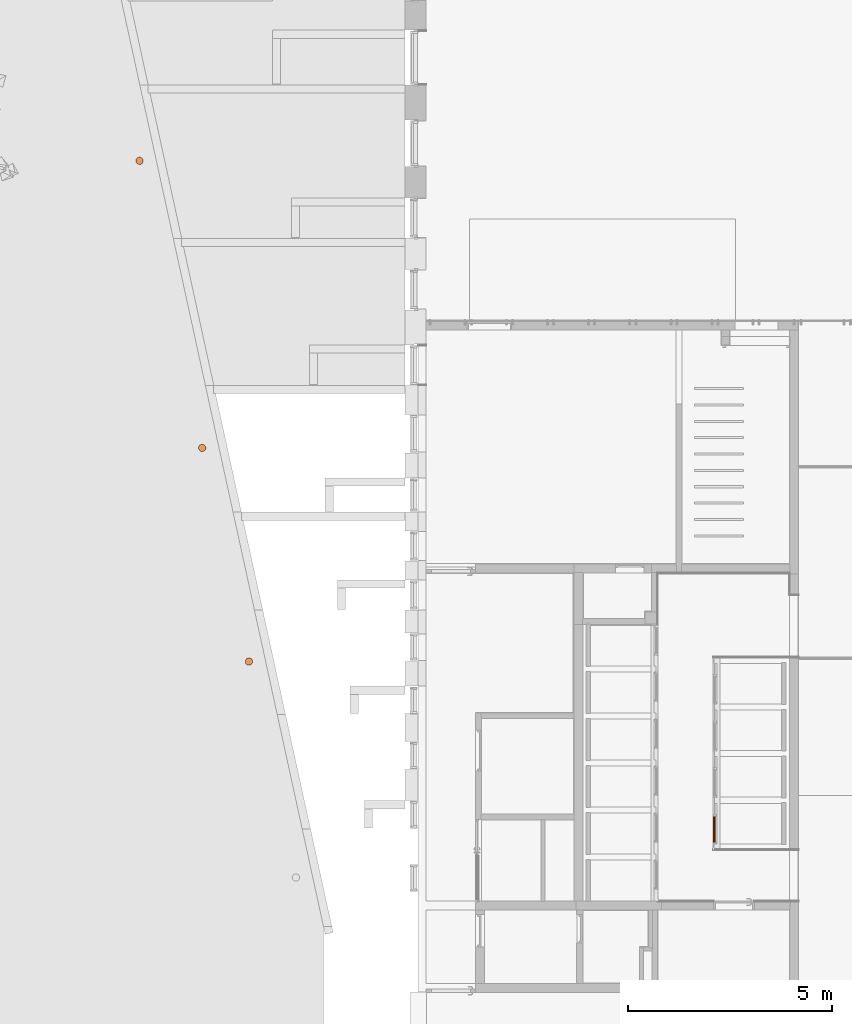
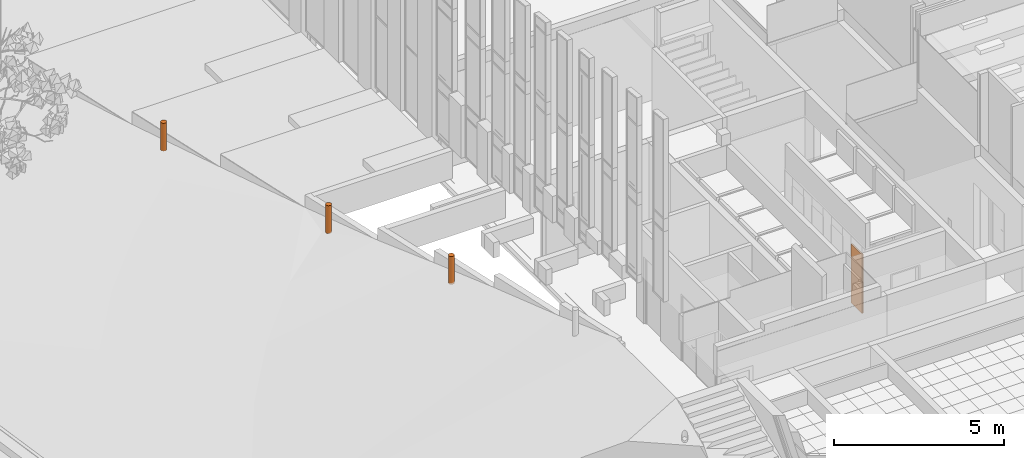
# One storey, part 217 of 246: 4 proxies, 1 element without a shape of its own.
"""IFC2X3 building model written with IfcOpenShell, lengths in millimetres."""

from ifc_helpers import new_model, entity, si_unit, converted_unit, derived_unit, money_unit, direction, frame, origin_with_axes, place, context, subcontext, project, spatial, open_shell, faceted_brep, surface_model, material, material_list, type_object, element, aggregate, save


model = new_model("IFC2X3")

# Units and contexts
model_context = context("Model", 3, precision=0.01, world=origin_with_axes(), true_north=direction((0.0, 1.0)))
body_context = subcontext(model_context, "Body", "Model", "MODEL_VIEW")
ifc_project = project(units=[si_unit("LENGTHUNIT", "METRE", prefix="MILLI"), si_unit("AREAUNIT", "SQUARE_METRE"), si_unit("VOLUMEUNIT", "CUBIC_METRE"), converted_unit("PLANEANGLEUNIT", "DEGREE", entity("IfcPlaneAngleMeasure", 0.0174532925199), si_unit("PLANEANGLEUNIT", "RADIAN"), dimensions=[0, 0, 0, 0, 0, 0, 0]), si_unit("SOLIDANGLEUNIT", "STERADIAN"), money_unit("EUR"), converted_unit("TIMEUNIT", "Year", entity("IfcTimeMeasure", 31556926.0), si_unit("TIMEUNIT", "SECOND"), dimensions=[0, 0, 1, 0, 0, 0, 0]), si_unit("MASSUNIT", "GRAM", prefix="KILO"), si_unit("THERMODYNAMICTEMPERATUREUNIT", "DEGREE_CELSIUS"), si_unit("LUMINOUSINTENSITYUNIT", "LUMEN"), si_unit("ENERGYUNIT", "JOULE", prefix="MEGA"), derived_unit("THERMALCONDUCTANCEUNIT", [(si_unit("POWERUNIT", "WATT"), 1), (si_unit("LENGTHUNIT", "METRE"), -1), (si_unit("THERMODYNAMICTEMPERATUREUNIT", "KELVIN"), -1)]), derived_unit("SPECIFICHEATCAPACITYUNIT", [(si_unit("ENERGYUNIT", "JOULE"), 1), (si_unit("MASSUNIT", "GRAM", prefix="KILO"), -1), (si_unit("THERMODYNAMICTEMPERATUREUNIT", "KELVIN"), -1)]), derived_unit("MASSDENSITYUNIT", [(si_unit("MASSUNIT", "GRAM", prefix="KILO"), 1), (si_unit("VOLUMEUNIT", "CUBIC_METRE"), -1)])], contexts=[model_context])

# Site, building, storey
site_placement = place(None, origin_with_axes())
site = spatial("IfcSite", under=ifc_project, at=site_placement, Name="L.Koidula tn 11b", CompositionType="ELEMENT")
building_placement = place(site_placement, origin_with_axes())
building = spatial("IfcBuilding", under=site, at=building_placement, Name="Rakvere Riigigümnaasium", CompositionType="ELEMENT")
storey_placement = place(building_placement, origin_with_axes())
storey = spatial("IfcBuildingStorey", under=building, at=storey_placement, Name="1.korrus 0,00", CompositionType="ELEMENT", Elevation=0.0)

# Curtain wall, proxy
curtain_wall_type = type_object("IfcCurtainWallType", Name="Curtain Wall Type", PredefinedType="NOTDEFINED")
curtain_wall_placement = place(storey_placement, frame((42519.9999626, 19079.4634323, 0.0), z_axis=(0.0, 0.0, 1.0), x_axis=(1.0, 0.0, 0.0)))
curtain_wall = element("IfcCurtainWall", 1, at=curtain_wall_placement, inside=storey, type_object=curtain_wall_type, Name="SUS-02")
ifc_material_1 = material(Name="Alumiiniumprofiil (RAL 7021)")
ifc_material_2 = material(Name="MDF")
ifc_material_list = material_list([ifc_material_1, ifc_material_2])
building_element_proxy_type_1 = type_object("IfcBuildingElementProxyType", Name="SU-Sile 7 x 2100 x 0", PredefinedType="NOTDEFINED")
proxy_1_placement = place(curtain_wall_placement, frame((0.0, 0.0, 1049.99999429), z_axis=(0.0, 0.0, 1.0), x_axis=(0.0, -1.0, 0.0)))
proxy_1 = element("IfcBuildingElementProxy", 2, at=proxy_1_placement, type_object=building_element_proxy_type_1, material=ifc_material_list, Name="Panel-Curtain-Wa-008", context=body_context, shape_type="SurfaceModel", body=[
    surface_model("IfcShellBasedSurfaceModel", [(-325.007923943, 50.0, -1049.99999429), (-313.007923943, 50.0, -1049.99999429), (-313.007923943, 50.0, 1049.99999429), (-325.007923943, 50.0, 1061.99999429)], [open_shell([[[0, 1, 2, 3]]])]),
    surface_model("IfcShellBasedSurfaceModel", [(-313.007923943, 50.0, 1049.99999429), (313.007915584, 50.0, 1049.99999429), (325.007915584, 50.0, 1061.99999429), (-325.007923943, 50.0, 1061.99999429)], [open_shell([[[0, 1, 2, 3]]])]),
    surface_model("IfcShellBasedSurfaceModel", [(313.007915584, 50.0, 1049.99999429), (313.007915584, 50.0, -1049.99999429), (325.007915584, 50.0, -1049.99999429), (325.007915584, 50.0, 1061.99999429)], [open_shell([[[0, 1, 2, 3]]])]),
    surface_model("IfcShellBasedSurfaceModel", [(-332.007928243, 0.0, -1049.99999429), (-313.007923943, 0.0, -1049.99999429), (-313.007923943, 0.0, 1049.99999429), (-332.007928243, 0.0, 1049.99999429)], [open_shell([[[0, 1, 2, 3]]])]),
    surface_model("IfcShellBasedSurfaceModel", [(332.007920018, 0.0, 1049.99999429), (313.007915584, 0.0, 1049.99999429), (313.007915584, 0.0, -1049.99999429), (332.007920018, 0.0, -1049.99999429)], [open_shell([[[0, 1, 2, 3]]])]),
    faceted_brep([(325.007915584, 38.1818181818, -1049.99999429), (325.007915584, 0.0, -1049.99999429), (-325.007923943, 0.0, -1049.99999429), (-325.007923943, 38.1818181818, -1049.99999429), (325.007915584, 38.1818181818, 1061.99999429), (325.007915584, 0.0, 1061.99999429), (-325.007923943, 0.0, 1061.99999429), (-325.007923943, 38.1818181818, 1061.99999429)], [[[0, 1, 2, 3]], [[4, 5, 1, 0]], [[1, 5, 6, 2]], [[3, 2, 6, 7]], [[0, 3, 7, 4]], [[7, 6, 5, 4]]]),
    faceted_brep([(313.864786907, 50.0, -1049.99999429), (313.864786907, 38.1818181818, -1049.99999429), (-313.864795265, 38.1818181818, -1049.99999429), (-313.864795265, 50.0, -1049.99999429), (313.864786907, 50.0, 1049.93142293), (313.864786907, 38.1818181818, 1049.93142293), (-313.864795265, 38.1818181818, 1049.93142293), (-313.864795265, 50.0, 1049.93142293)], [[[0, 1, 2, 3]], [[4, 5, 1, 0]], [[1, 5, 6, 2]], [[3, 2, 6, 7]], [[0, 3, 7, 4]], [[7, 6, 5, 4]]]),
])
aggregate(curtain_wall, [proxy_1])

# Proxies
ifc_material_3 = material(Name="Alumiinium (RAL 7026)")
building_element_proxy_type_2 = type_object("IfcBuildingElementProxyType", Name="Alumiinium (RAL 7026) D180", PredefinedType="NOTDEFINED")
proxy_2_placement = place(storey_placement, frame((31162.9340038, 23183.7988105, 2394.56865589), z_axis=(0.0, 0.0, 1.0), x_axis=(1.0, 0.0, 0.0)))
element("IfcBuildingElementProxy", 3, at=proxy_2_placement, inside=storey, type_object=building_element_proxy_type_2, material=ifc_material_3, Name="Pollar valgusti", context=body_context, shape_type="Brep", body=[
    faceted_brep([(-90.0, 0.0, 1000.0), (-90.0, 0.0, 0.0), (-86.933324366, -23.2937140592, 0.0), (-86.933324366, -23.2937140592, 1000.0), (-86.933324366, 23.2937140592, 1000.0), (-86.933324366, 23.2937140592, 0.0), (-77.9422863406, 45.0, 0.0), (-63.6396103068, 63.6396103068, 0.0), (-45.0, 77.9422863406, 0.0), (-23.2937140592, 86.933324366, 0.0), (0.0, 90.0, 0.0), (23.2937140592, 86.933324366, 0.0), (45.0, 77.9422863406, 0.0), (63.6396103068, 63.6396103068, 0.0), (77.9422863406, 45.0, 0.0), (86.933324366, 23.2937140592, 0.0), (90.0, 0.0, 0.0), (86.933324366, -23.2937140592, 0.0), (77.9422863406, -45.0, 0.0), (63.6396103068, -63.6396103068, 0.0), (45.0, -77.9422863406, 0.0), (23.2937140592, -86.933324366, 0.0), (0.0, -90.0, 0.0), (-23.2937140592, -86.933324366, 0.0), (-45.0, -77.9422863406, 0.0), (-63.6396103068, -63.6396103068, 0.0), (-77.9422863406, -45.0, 0.0), (-77.9422863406, -45.0, 1000.0), (-63.6396103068, -63.6396103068, 1000.0), (-45.0, -77.9422863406, 1000.0), (-23.2937140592, -86.933324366, 1000.0), (0.0, -90.0, 1000.0), (23.2937140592, -86.933324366, 1000.0), (45.0, -77.9422863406, 1000.0), (63.6396103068, -63.6396103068, 1000.0), (77.9422863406, -45.0, 1000.0), (86.933324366, -23.2937140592, 1000.0), (90.0, 0.0, 1000.0), (86.933324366, 23.2937140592, 1000.0), (77.9422863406, 45.0, 1000.0), (63.6396103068, 63.6396103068, 1000.0), (45.0, 77.9422863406, 1000.0), (23.2937140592, 86.933324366, 1000.0), (0.0, 90.0, 1000.0), (-23.2937140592, 86.933324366, 1000.0), (-45.0, 77.9422863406, 1000.0), (-63.6396103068, 63.6396103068, 1000.0), (-77.9422863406, 45.0, 1000.0)], [[[0, 1, 2, 3]], [[4, 5, 1, 0]], [[2, 1, 5, 6, 7, 8, 9, 10, 11, 12, 13, 14, 15, 16, 17, 18, 19, 20, 21, 22, 23, 24, 25, 26]], [[3, 2, 26, 27]], [[4, 0, 3, 27, 28, 29, 30, 31, 32, 33, 34, 35, 36, 37, 38, 39, 40, 41, 42, 43, 44, 45, 46, 47]], [[47, 6, 5, 4]], [[46, 7, 6, 47]], [[45, 8, 7, 46]], [[44, 9, 8, 45]], [[43, 10, 9, 44]], [[42, 11, 10, 43]], [[41, 12, 11, 42]], [[40, 13, 12, 41]], [[39, 14, 13, 40]], [[38, 15, 14, 39]], [[37, 16, 15, 38]], [[36, 17, 16, 37]], [[35, 18, 17, 36]], [[34, 19, 18, 35]], [[33, 20, 19, 34]], [[32, 21, 20, 33]], [[31, 22, 21, 32]], [[30, 23, 22, 31]], [[29, 24, 23, 30]], [[28, 25, 24, 29]], [[27, 26, 25, 28]]]),
])
proxy_3_placement = place(storey_placement, frame((30018.640737, 28410.1417684, 1447.90568957), z_axis=(0.0, 0.0, 1.0), x_axis=(1.0, 0.0, 0.0)))
element("IfcBuildingElementProxy", 4, at=proxy_3_placement, inside=storey, type_object=building_element_proxy_type_2, material=ifc_material_3, Name="Pollar valgusti", context=body_context, shape_type="Brep", body=[
    faceted_brep([(-90.0, 0.0, 1000.0), (-90.0, 0.0, 0.0), (-86.933324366, -23.2937140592, 0.0), (-86.933324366, -23.2937140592, 1000.0), (-86.933324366, 23.2937140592, 1000.0), (-86.933324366, 23.2937140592, 0.0), (-77.9422863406, 45.0, 0.0), (-63.6396103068, 63.6396103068, 0.0), (-45.0, 77.9422863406, 0.0), (-23.2937140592, 86.933324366, 0.0), (0.0, 90.0, 0.0), (23.2937140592, 86.933324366, 0.0), (45.0, 77.9422863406, 0.0), (63.6396103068, 63.6396103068, 0.0), (77.9422863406, 45.0, 0.0), (86.933324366, 23.2937140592, 0.0), (90.0, 0.0, 0.0), (86.933324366, -23.2937140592, 0.0), (77.9422863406, -45.0, 0.0), (63.6396103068, -63.6396103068, 0.0), (45.0, -77.9422863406, 0.0), (23.2937140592, -86.933324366, 0.0), (0.0, -90.0, 0.0), (-23.2937140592, -86.933324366, 0.0), (-45.0, -77.9422863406, 0.0), (-63.6396103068, -63.6396103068, 0.0), (-77.9422863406, -45.0, 0.0), (-77.9422863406, -45.0, 1000.0), (-63.6396103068, -63.6396103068, 1000.0), (-45.0, -77.9422863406, 1000.0), (-23.2937140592, -86.933324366, 1000.0), (0.0, -90.0, 1000.0), (23.2937140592, -86.933324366, 1000.0), (45.0, -77.9422863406, 1000.0), (63.6396103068, -63.6396103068, 1000.0), (77.9422863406, -45.0, 1000.0), (86.933324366, -23.2937140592, 1000.0), (90.0, 0.0, 1000.0), (86.933324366, 23.2937140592, 1000.0), (77.9422863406, 45.0, 1000.0), (63.6396103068, 63.6396103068, 1000.0), (45.0, 77.9422863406, 1000.0), (23.2937140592, 86.933324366, 1000.0), (0.0, 90.0, 1000.0), (-23.2937140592, 86.933324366, 1000.0), (-45.0, 77.9422863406, 1000.0), (-63.6396103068, 63.6396103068, 1000.0), (-77.9422863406, 45.0, 1000.0)], [[[0, 1, 2, 3]], [[4, 5, 1, 0]], [[2, 1, 5, 6, 7, 8, 9, 10, 11, 12, 13, 14, 15, 16, 17, 18, 19, 20, 21, 22, 23, 24, 25, 26]], [[3, 2, 26, 27]], [[4, 0, 3, 27, 28, 29, 30, 31, 32, 33, 34, 35, 36, 37, 38, 39, 40, 41, 42, 43, 44, 45, 46, 47]], [[47, 6, 5, 4]], [[46, 7, 6, 47]], [[45, 8, 7, 46]], [[44, 9, 8, 45]], [[43, 10, 9, 44]], [[42, 11, 10, 43]], [[41, 12, 11, 42]], [[40, 13, 12, 41]], [[39, 14, 13, 40]], [[38, 15, 14, 39]], [[37, 16, 15, 38]], [[36, 17, 16, 37]], [[35, 18, 17, 36]], [[34, 19, 18, 35]], [[33, 20, 19, 34]], [[32, 21, 20, 33]], [[31, 22, 21, 32]], [[30, 23, 22, 31]], [[29, 24, 23, 30]], [[28, 25, 24, 29]], [[27, 26, 25, 28]]]),
])
proxy_4_placement = place(storey_placement, frame((28485.510821, 35434.9091058, 677.273080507), z_axis=(0.0, 0.0, 1.0), x_axis=(1.0, 0.0, 0.0)))
element("IfcBuildingElementProxy", 5, at=proxy_4_placement, inside=storey, type_object=building_element_proxy_type_2, material=ifc_material_3, Name="Pollar valgusti", context=body_context, shape_type="Brep", body=[
    faceted_brep([(-90.0, 0.0, 1000.0), (-90.0, 0.0, 0.0), (-86.933324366, -23.2937140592, 0.0), (-86.933324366, -23.2937140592, 1000.0), (-86.933324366, 23.2937140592, 1000.0), (-86.933324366, 23.2937140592, 0.0), (-77.9422863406, 45.0, 0.0), (-63.6396103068, 63.6396103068, 0.0), (-45.0, 77.9422863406, 0.0), (-23.2937140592, 86.933324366, 0.0), (0.0, 90.0, 0.0), (23.2937140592, 86.933324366, 0.0), (45.0, 77.9422863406, 0.0), (63.6396103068, 63.6396103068, 0.0), (77.9422863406, 45.0, 0.0), (86.933324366, 23.2937140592, 0.0), (90.0, 0.0, 0.0), (86.933324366, -23.2937140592, 0.0), (77.9422863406, -45.0, 0.0), (63.6396103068, -63.6396103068, 0.0), (45.0, -77.9422863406, 0.0), (23.2937140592, -86.933324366, 0.0), (0.0, -90.0, 0.0), (-23.2937140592, -86.933324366, 0.0), (-45.0, -77.9422863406, 0.0), (-63.6396103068, -63.6396103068, 0.0), (-77.9422863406, -45.0, 0.0), (-77.9422863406, -45.0, 1000.0), (-63.6396103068, -63.6396103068, 1000.0), (-45.0, -77.9422863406, 1000.0), (-23.2937140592, -86.933324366, 1000.0), (0.0, -90.0, 1000.0), (23.2937140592, -86.933324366, 1000.0), (45.0, -77.9422863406, 1000.0), (63.6396103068, -63.6396103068, 1000.0), (77.9422863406, -45.0, 1000.0), (86.933324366, -23.2937140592, 1000.0), (90.0, 0.0, 1000.0), (86.933324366, 23.2937140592, 1000.0), (77.9422863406, 45.0, 1000.0), (63.6396103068, 63.6396103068, 1000.0), (45.0, 77.9422863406, 1000.0), (23.2937140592, 86.933324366, 1000.0), (0.0, 90.0, 1000.0), (-23.2937140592, 86.933324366, 1000.0), (-45.0, 77.9422863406, 1000.0), (-63.6396103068, 63.6396103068, 1000.0), (-77.9422863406, 45.0, 1000.0)], [[[0, 1, 2, 3]], [[4, 5, 1, 0]], [[2, 1, 5, 6, 7, 8, 9, 10, 11, 12, 13, 14, 15, 16, 17, 18, 19, 20, 21, 22, 23, 24, 25, 26]], [[3, 2, 26, 27]], [[4, 0, 3, 27, 28, 29, 30, 31, 32, 33, 34, 35, 36, 37, 38, 39, 40, 41, 42, 43, 44, 45, 46, 47]], [[47, 6, 5, 4]], [[46, 7, 6, 47]], [[45, 8, 7, 46]], [[44, 9, 8, 45]], [[43, 10, 9, 44]], [[42, 11, 10, 43]], [[41, 12, 11, 42]], [[40, 13, 12, 41]], [[39, 14, 13, 40]], [[38, 15, 14, 39]], [[37, 16, 15, 38]], [[36, 17, 16, 37]], [[35, 18, 17, 36]], [[34, 19, 18, 35]], [[33, 20, 19, 34]], [[32, 21, 20, 33]], [[31, 22, 21, 32]], [[30, 23, 22, 31]], [[29, 24, 23, 30]], [[28, 25, 24, 29]], [[27, 26, 25, 28]]]),
])

save(model, "model.ifc")
